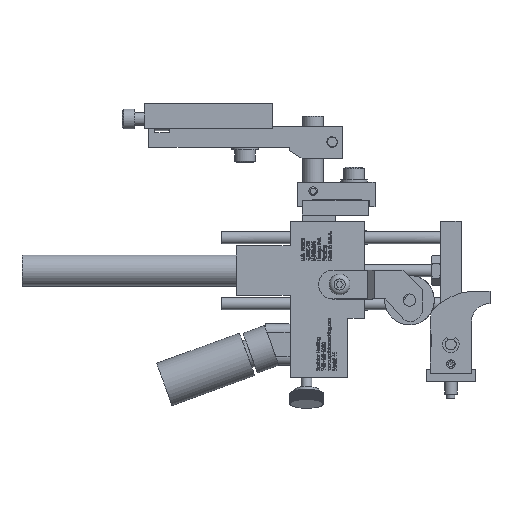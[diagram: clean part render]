
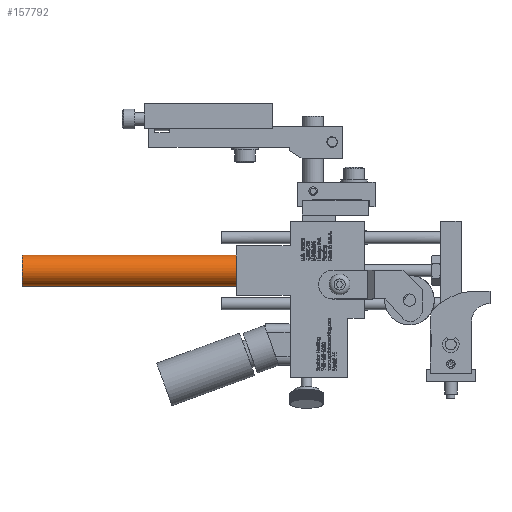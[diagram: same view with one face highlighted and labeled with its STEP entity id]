
A CAD part, top view. The second image highlights one B-rep face of the part: STEP entity #157792.
In plain terms, the highlighted cylindrical face has radius 5.969 mm (diameter 11.938 mm), a full revolution.
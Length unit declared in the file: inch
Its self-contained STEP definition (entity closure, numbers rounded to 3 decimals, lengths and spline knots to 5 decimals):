
#157510=CARTESIAN_POINT('',(-1.4995,0.8125,0.61));
#157511=VERTEX_POINT('',#157510);
#157512=CARTESIAN_POINT('',(-1.4995,0.8125,0.375));
#157513=DIRECTION('',(1.0,0.0,0.0));
#157514=DIRECTION('',(0.0,0.0,-1.0));
#157515=AXIS2_PLACEMENT_3D('',#157512,#157513,#157514);
#157516=CIRCLE('',#157515,0.235);
#157517=EDGE_CURVE('',#157511,#157511,#157516,.T.);
#157758=CARTESIAN_POINT('',(-4.7495,0.8125,0.61));
#157759=VERTEX_POINT('',#157758);
#157760=CARTESIAN_POINT('',(-4.7495,0.8125,0.375));
#157761=DIRECTION('',(1.0,0.0,0.0));
#157762=DIRECTION('',(0.0,0.0,-1.0));
#157763=AXIS2_PLACEMENT_3D('',#157760,#157761,#157762);
#157764=CIRCLE('',#157763,0.235);
#157765=EDGE_CURVE('',#157759,#157759,#157764,.T.);
#157781=CARTESIAN_POINT('',(-1.4995,0.8125,0.375));
#157782=DIRECTION('',(-1.0,0.,0.));
#157783=DIRECTION('',(0.0,0.0,-1.0));
#157784=AXIS2_PLACEMENT_3D('',#157781,#157782,#157783);
#157785=CYLINDRICAL_SURFACE('',#157784,0.235);
#157786=ORIENTED_EDGE('',*,*,#157765,.T.);
#157787=EDGE_LOOP('',(#157786));
#157788=FACE_OUTER_BOUND('',#157787,.T.);
#157789=ORIENTED_EDGE('',*,*,#157517,.F.);
#157790=EDGE_LOOP('',(#157789));
#157791=FACE_BOUND('',#157790,.T.);
#157792=ADVANCED_FACE('',(#157788,#157791),#157785,.T.);
